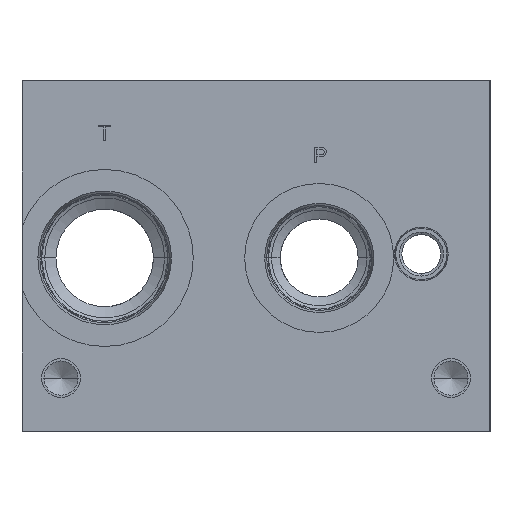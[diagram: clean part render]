
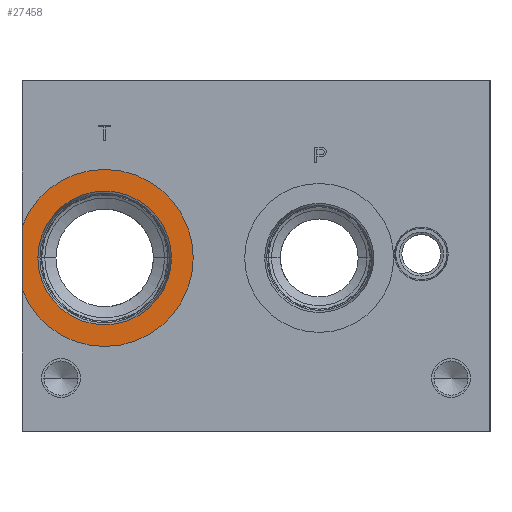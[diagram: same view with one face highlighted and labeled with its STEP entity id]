
A CAD part, left-side view. The second image highlights one B-rep face of the part: STEP entity #27458.
In plain terms, the highlighted planar face has unit normal (-1, 0, 0).
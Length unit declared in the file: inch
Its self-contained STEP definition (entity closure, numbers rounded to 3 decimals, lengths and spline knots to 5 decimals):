
#644 = CARTESIAN_POINT ( 'NONE',  ( 0.031, -1.06, -2.275 ) ) ;
#1881 = AXIS2_PLACEMENT_3D ( 'NONE', #644, #2949, #5563 ) ;
#2005 = FACE_OUTER_BOUND ( 'NONE', #28366, .T. ) ;
#2024 = CIRCLE ( 'NONE', #1881, 1.135 ) ;
#2106 = CARTESIAN_POINT ( 'NONE',  ( 0.031, 0., -2.68074 ) ) ;
#2343 = CARTESIAN_POINT ( 'NONE',  ( 0.031, -1.9165, -2.275 ) ) ;
#2535 = VERTEX_POINT ( 'NONE', #2343 ) ;
#2787 = CARTESIAN_POINT ( 'NONE',  ( 0.031, -1.06, -2.275 ) ) ;
#2860 = AXIS2_PLACEMENT_3D ( 'NONE', #10572, #12884, #17310 ) ;
#2949 = DIRECTION ( 'NONE',  ( 1., 0., 0. ) ) ;
#3082 = ORIENTED_EDGE ( 'NONE', *, *, #6199, .F. ) ;
#3223 = ORIENTED_EDGE ( 'NONE', *, *, #23534, .T. ) ;
#3632 = VERTEX_POINT ( 'NONE', #15215 ) ;
#4449 = DIRECTION ( 'NONE',  ( 0., 1., 0. ) ) ;
#5563 = DIRECTION ( 'NONE',  ( 0., 1., 0. ) ) ;
#6199 = EDGE_CURVE ( 'NONE', #24533, #19476, #2024, .T. ) ;
#6438 = EDGE_CURVE ( 'NONE', #2535, #3632, #21807, .T. ) ;
#8222 = CARTESIAN_POINT ( 'NONE',  ( 0.031, 0., -4.5 ) ) ;
#10449 = LINE ( 'NONE', #8222, #26318 ) ;
#10515 = CIRCLE ( 'NONE', #17912, 0.8565 ) ;
#10572 = CARTESIAN_POINT ( 'NONE',  ( 0.031, -1.06, -2.275 ) ) ;
#11357 = FACE_BOUND ( 'NONE', #26915, .T. ) ;
#12884 = DIRECTION ( 'NONE',  ( 1., 0., 0. ) ) ;
#13497 = CARTESIAN_POINT ( 'NONE',  ( 0.031, 0.075, -2.275 ) ) ;
#13801 = CARTESIAN_POINT ( 'NONE',  ( 0.031, 0., -1.86926 ) ) ;
#14141 = DIRECTION ( 'NONE',  ( 1., 0., 0. ) ) ;
#15215 = CARTESIAN_POINT ( 'NONE',  ( 0.031, -0.2035, -2.275 ) ) ;
#16620 = EDGE_CURVE ( 'NONE', #24533, #19476, #10449, .T. ) ;
#17310 = DIRECTION ( 'NONE',  ( 0., 1., 0. ) ) ;
#17495 = ORIENTED_EDGE ( 'NONE', *, *, #16620, .T. ) ;
#17666 = AXIS2_PLACEMENT_3D ( 'NONE', #13497, #18840, #4449 ) ;
#17912 = AXIS2_PLACEMENT_3D ( 'NONE', #2787, #14141, #18764 ) ;
#18764 = DIRECTION ( 'NONE',  ( 0., 1., 0. ) ) ;
#18840 = DIRECTION ( 'NONE',  ( 1., 0., 0. ) ) ;
#19476 = VERTEX_POINT ( 'NONE', #2106 ) ;
#21807 = CIRCLE ( 'NONE', #2860, 0.8565 ) ;
#22553 = PLANE ( 'NONE',  #17666 ) ;
#23534 = EDGE_CURVE ( 'NONE', #3632, #2535, #10515, .T. ) ;
#24533 = VERTEX_POINT ( 'NONE', #13801 ) ;
#25108 = ORIENTED_EDGE ( 'NONE', *, *, #6438, .T. ) ;
#26318 = VECTOR ( 'NONE', #26759, 39.37008 ) ;
#26759 = DIRECTION ( 'NONE',  ( 0., 0., -1. ) ) ;
#26915 = EDGE_LOOP ( 'NONE', ( #25108, #3223 ) ) ;
#27458 = ADVANCED_FACE ( 'NONE', ( #2005, #11357 ), #22553, .F. ) ;
#28366 = EDGE_LOOP ( 'NONE', ( #17495, #3082 ) ) ;
